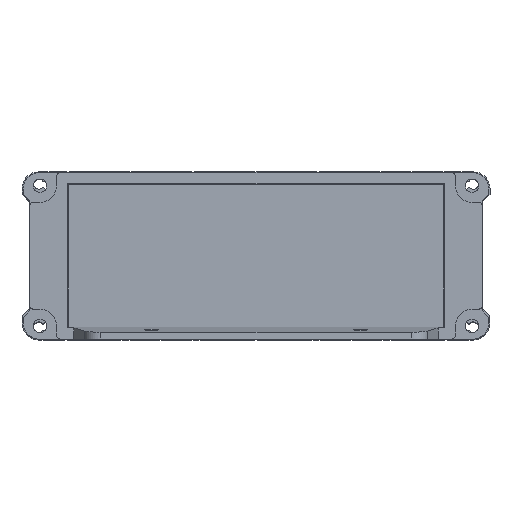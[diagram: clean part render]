
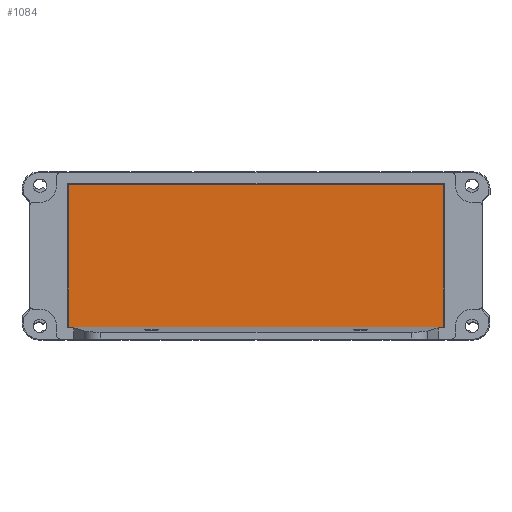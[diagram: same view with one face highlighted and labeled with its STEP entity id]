
A CAD part, top view. The second image highlights one B-rep face of the part: STEP entity #1084.
In plain terms, the highlighted planar face has unit normal (0, 0, 1).
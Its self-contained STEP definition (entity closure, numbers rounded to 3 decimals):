
#161 = CARTESIAN_POINT ( 'NONE',  ( -45., 17.125, 2. ) ) ;
#740 = LINE ( 'NONE', #2438, #2926 ) ;
#1084 = ADVANCED_FACE ( 'NONE', ( #9672 ), #6334, .T. ) ;
#1282 = ORIENTED_EDGE ( 'NONE', *, *, #1288, .T. ) ;
#1288 = EDGE_CURVE ( 'NONE', #6869, #6074, #7272, .T. ) ;
#1443 = VECTOR ( 'NONE', #4431, 1000. ) ;
#1498 = ORIENTED_EDGE ( 'NONE', *, *, #5029, .T. ) ;
#1761 = VECTOR ( 'NONE', #8138, 1000. ) ;
#2122 = CARTESIAN_POINT ( 'NONE',  ( -45., -17.125, 2. ) ) ;
#2164 = LINE ( 'NONE', #7977, #1443 ) ;
#2438 = CARTESIAN_POINT ( 'NONE',  ( 45., -17.125, 2. ) ) ;
#2711 = EDGE_CURVE ( 'NONE', #10451, #6869, #740, .T. ) ;
#2777 = DIRECTION ( 'NONE',  ( 1., 0., 0. ) ) ;
#2926 = VECTOR ( 'NONE', #8092, 1000. ) ;
#3114 = CARTESIAN_POINT ( 'NONE',  ( 45., 17.125, 2. ) ) ;
#3189 = AXIS2_PLACEMENT_3D ( 'NONE', #8648, #6282, #2777 ) ;
#3958 = CARTESIAN_POINT ( 'NONE',  ( 45., -17.125, 2. ) ) ;
#4406 = EDGE_LOOP ( 'NONE', ( #1498, #5757, #1282, #5934 ) ) ;
#4431 = DIRECTION ( 'NONE',  ( 0., -1., 0. ) ) ;
#4813 = CARTESIAN_POINT ( 'NONE',  ( 45., -17.125, 2. ) ) ;
#4857 = VERTEX_POINT ( 'NONE', #161 ) ;
#5029 = EDGE_CURVE ( 'NONE', #4857, #10451, #2164, .T. ) ;
#5757 = ORIENTED_EDGE ( 'NONE', *, *, #2711, .T. ) ;
#5934 = ORIENTED_EDGE ( 'NONE', *, *, #10228, .T. ) ;
#5967 = CARTESIAN_POINT ( 'NONE',  ( 45., 17.125, 2. ) ) ;
#6074 = VERTEX_POINT ( 'NONE', #3114 ) ;
#6282 = DIRECTION ( 'NONE',  ( 0., 0., 1. ) ) ;
#6334 = PLANE ( 'NONE',  #3189 ) ;
#6869 = VERTEX_POINT ( 'NONE', #3958 ) ;
#7272 = LINE ( 'NONE', #4813, #1761 ) ;
#7977 = CARTESIAN_POINT ( 'NONE',  ( -45., -17.125, 2. ) ) ;
#8092 = DIRECTION ( 'NONE',  ( 1., 0., 0. ) ) ;
#8138 = DIRECTION ( 'NONE',  ( 0., 1., 0. ) ) ;
#8490 = DIRECTION ( 'NONE',  ( -1., 0., 0. ) ) ;
#8544 = LINE ( 'NONE', #5967, #10314 ) ;
#8648 = CARTESIAN_POINT ( 'NONE',  ( -45., 17.125, 2. ) ) ;
#9672 = FACE_OUTER_BOUND ( 'NONE', #4406, .T. ) ;
#10228 = EDGE_CURVE ( 'NONE', #6074, #4857, #8544, .T. ) ;
#10314 = VECTOR ( 'NONE', #8490, 1000. ) ;
#10451 = VERTEX_POINT ( 'NONE', #2122 ) ;
